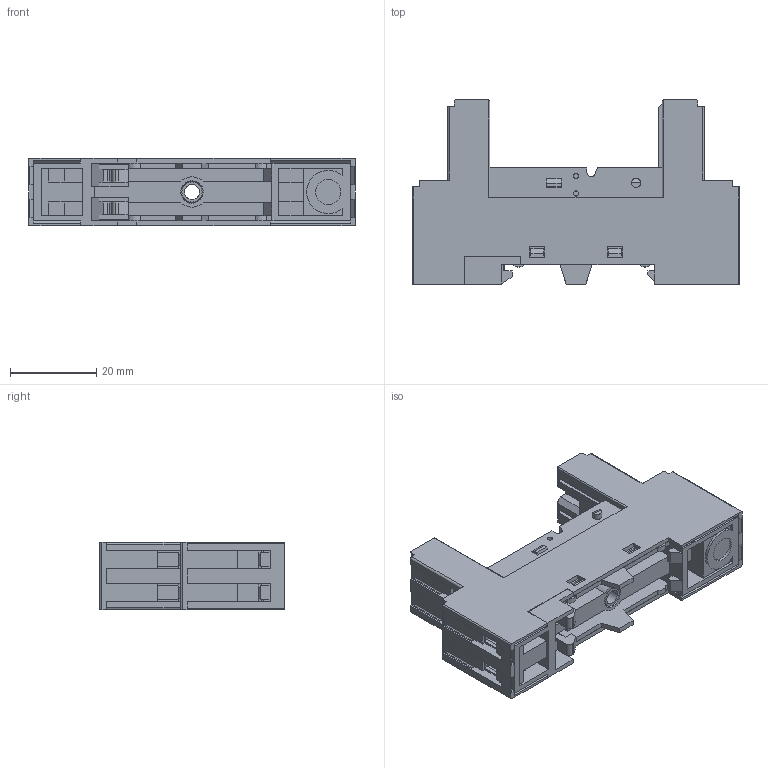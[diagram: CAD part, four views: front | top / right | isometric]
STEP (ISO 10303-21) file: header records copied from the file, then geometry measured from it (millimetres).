
FILE_DESCRIPTION(/* description */ (''),/* implementation_level */ '2;1');
FILE_NAME(/* name */ '55660058000_a_stp.stp',/* time_stamp */ '2018-12-28T13:04:10+08:00',/* author */ (''),/* organization */ (''),/* preprocessor_version */ 'ST-DEVELOPER v15',/* originating_system */ 'SIEMENS PLM Software NX 8.5',/* authorisation */ '');
FILE_SCHEMA (('CONFIG_CONTROL_DESIGN'));
Length unit declared in the file: millimetre
Products named in the file (9): 89140018000_c; 89360003000_a; 77550335000_a; 77550336000_a; 77550016000_a; 77550018000_a; 860500340001_a; 80720192000_c; 55660058000_a_stp
Assembly tree (26 placements, depth 2):
  55660058000_a_stp
    80720192000_c
    860500340001_a
    77550018000_a  x2
    77550016000_a  x2
    77550336000_a  x2
    77550335000_a  x2
    89360003000_a  x8
    89140018000_c  x8
Bounding box: 75.6 x 42.7 x 15.6 mm (x, y, z)
Volume: 20042.3 mm3; surface area: 27193.7 mm2
Topology: 26 solids, 26 shells, 2085 faces, 5558 edges, 3601 vertices
Faces by surface type: plane 1554, cylinder 442, torus 46, bspline 18, sphere 16, cone 9
Full cylindrical faces by diameter (mm): 1.2 x4, 1.5 x2, 2.1 x2, 2.35 x8, 3 x8, 3.5 x1, 3.7 x2, 5 x8, 5.2 x1, 5.5 x8, 5.8 x1, 6 x1
Entity records: 43517 total; most frequent: CARTESIAN_POINT 8074, ORIENTED_EDGE 7224, DIRECTION 6717, EDGE_CURVE 3612, LINE 3089, VECTOR 3089, VERTEX_POINT 2392, AXIS2_PLACEMENT_3D 1814
